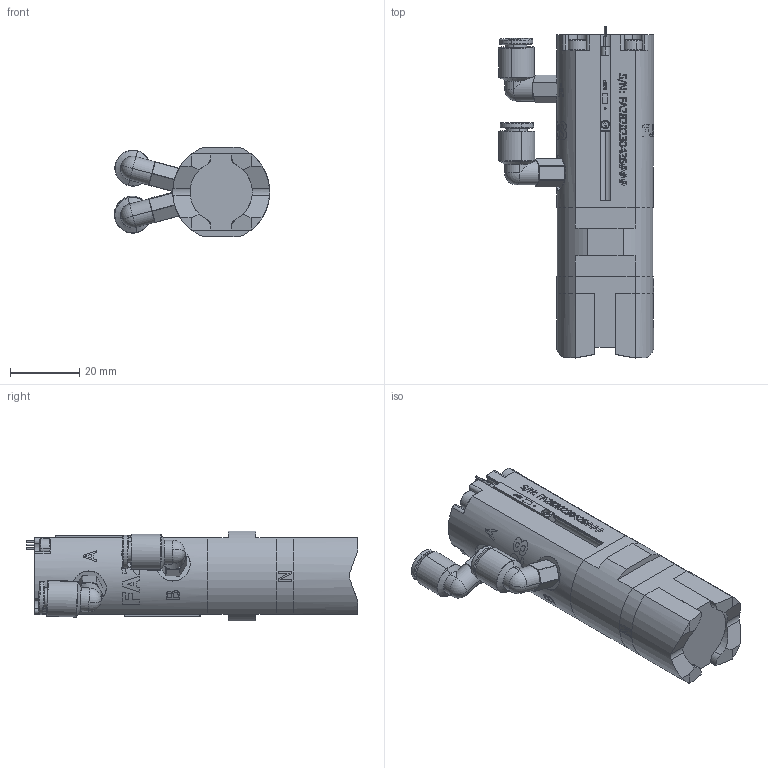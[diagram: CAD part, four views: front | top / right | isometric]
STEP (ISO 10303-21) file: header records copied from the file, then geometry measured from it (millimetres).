
FILE_DESCRIPTION (( 'STEP AP214' ), '1' );
FILE_NAME ('9970116_FA28-V-1 (FOR SHARE).STEP', '2023-10-06T07:58:44', ( '' ), ( '' ), 'SwSTEP 2.0', 'SolidWorks 2021', '' );
FILE_SCHEMA (( 'AUTOMOTIVE_DESIGN' ));
Length unit declared in the file: millimetre
Products named in the file (12): 110030_FA28 base housing(FOR SHARE); 210011_D-M9P magnetic prox switch (PNP)_M9P; 150048_M3X75_SHCS_304(FOR SHARE)_91292A316; 110031_FA28 actuator top(FOR SHARE); 120040_FA28 shunt(FOR SHARE); 9970116_FA28-V-1 (FOR SHARE); 9070005 - FA28 (FOR SHARE); 160030_2.5X12__SUS304_默认_; 180027_ M5-6mm_plug-in airport; 120049_FA28 std  V-cut pole; 4060032_FA28 std V-cut pole kit_默认_; 160029_2.5X8__SUS304_默认_
Assembly tree (19 placements, depth 3):
  9970116_FA28-V-1 (FOR SHARE)
    9070005 - FA28 (FOR SHARE)
      110031_FA28 actuator top(FOR SHARE)
      110030_FA28 base housing(FOR SHARE)
      120040_FA28 shunt(FOR SHARE)
      150048_M3X75_SHCS_304(FOR SHARE)_91292A316  x4
      160029_2.5X8__SUS304_默认_  x2
      160030_2.5X12__SUS304_默认_  x2
    210011_D-M9P magnetic prox switch (PNP)_M9P  x2
    4060032_FA28 std V-cut pole kit_默认_
      120049_FA28 std  V-cut pole  x2
    180027_ M5-6mm_plug-in airport  x2
Bounding box: 44.9 x 96.04 x 26 mm (x, y, z)
Volume: 48354.9 mm3; surface area: 25171.4 mm2
Topology: 17 solids, 23 shells, 817 faces, 2357 edges, 1629 vertices
Faces by surface type: cylinder 307, plane 266, cone 134, bspline 50, torus 32, sphere 28
Entity records: 23963 total; most frequent: CARTESIAN_POINT 7999, ORIENTED_EDGE 3128, DIRECTION 2638, EDGE_CURVE 1568, VERTEX_POINT 1188, AXIS2_PLACEMENT_3D 956, LINE 726, VECTOR 726
